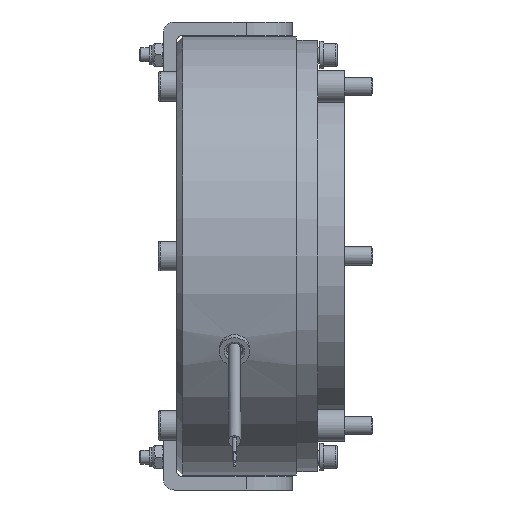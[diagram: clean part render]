
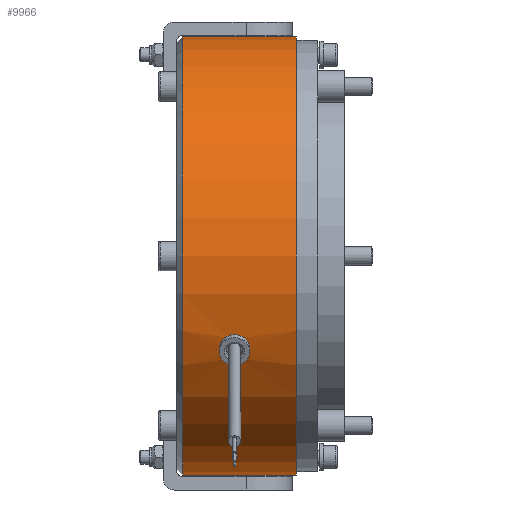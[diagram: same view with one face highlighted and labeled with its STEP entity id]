
A CAD part, front view. The second image highlights one B-rep face of the part: STEP entity #9966.
In plain terms, the highlighted cylindrical face has radius 95 mm (diameter 190 mm), a full revolution.
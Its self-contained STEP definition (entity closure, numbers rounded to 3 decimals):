
#227=B_SPLINE_CURVE_WITH_KNOTS('',3,(#20321,#20322,#20323,#20324,#20325,
#20326,#20327,#20328,#20329,#20330,#20331,#20332,#20333,#20334,#20335,#20336,
#20337,#20338,#20339),.UNSPECIFIED.,.F.,.F.,(4,2,2,2,3,2,2,2,4),(2.348,
2.544,2.74,2.935,3.131,3.326,
3.522,3.718,3.913),.UNSPECIFIED.);
#228=B_SPLINE_CURVE_WITH_KNOTS('',3,(#20342,#20343,#20344,#20345,#20346,
#20347,#20348,#20349,#20350,#20351,#20352,#20353,#20354,#20355,#20356,#20357,
#20358,#20359),.UNSPECIFIED.,.F.,.F.,(4,2,2,2,2,2,2,2,4),(0.783,
0.978,1.174,1.37,1.565,1.761,
1.957,2.152,2.348),.UNSPECIFIED.);
#509=FACE_BOUND('',#1526,.T.);
#940=FACE_OUTER_BOUND('',#1525,.T.);
#1525=EDGE_LOOP('',(#7331,#7332,#7333,#7334,#7335,#7336));
#1526=EDGE_LOOP('',(#7337,#7338,#7339,#7340,#7341,#7342));
#2056=LINE('',#20316,#2530);
#2057=LINE('',#20319,#2531);
#2058=LINE('',#20341,#2532);
#2530=VECTOR('',#12859,95.);
#2531=VECTOR('',#12860,10.);
#2532=VECTOR('',#12861,10.);
#3079=CIRCLE('',#10826,95.);
#3080=CIRCLE('',#10827,95.);
#3089=CIRCLE('',#10838,95.);
#3090=CIRCLE('',#10839,95.);
#3943=VERTEX_POINT('',#20164);
#3944=VERTEX_POINT('',#20165);
#3955=VERTEX_POINT('',#20312);
#3956=VERTEX_POINT('',#20313);
#3957=VERTEX_POINT('',#20317);
#3958=VERTEX_POINT('',#20318);
#3959=VERTEX_POINT('',#20320);
#3960=VERTEX_POINT('',#20340);
#5165=EDGE_CURVE('',#3943,#3944,#3079,.T.);
#5166=EDGE_CURVE('',#3944,#3943,#3080,.T.);
#5179=EDGE_CURVE('',#3955,#3956,#3089,.T.);
#5180=EDGE_CURVE('',#3956,#3955,#3090,.T.);
#5181=EDGE_CURVE('',#3956,#3944,#2056,.T.);
#5182=EDGE_CURVE('',#3957,#3958,#2057,.T.);
#5183=EDGE_CURVE('',#3957,#3959,#227,.T.);
#5184=EDGE_CURVE('',#3959,#3960,#2058,.T.);
#5185=EDGE_CURVE('',#3959,#3957,#228,.T.);
#7331=ORIENTED_EDGE('',*,*,#5179,.F.);
#7332=ORIENTED_EDGE('',*,*,#5180,.F.);
#7333=ORIENTED_EDGE('',*,*,#5181,.T.);
#7334=ORIENTED_EDGE('',*,*,#5165,.F.);
#7335=ORIENTED_EDGE('',*,*,#5166,.F.);
#7336=ORIENTED_EDGE('',*,*,#5181,.F.);
#7337=ORIENTED_EDGE('',*,*,#5182,.T.);
#7338=ORIENTED_EDGE('',*,*,#5182,.F.);
#7339=ORIENTED_EDGE('',*,*,#5183,.T.);
#7340=ORIENTED_EDGE('',*,*,#5184,.T.);
#7341=ORIENTED_EDGE('',*,*,#5184,.F.);
#7342=ORIENTED_EDGE('',*,*,#5185,.T.);
#9029=CYLINDRICAL_SURFACE('',#10837,95.);
#9966=ADVANCED_FACE('',(#940,#509),#9029,.T.);
#10826=AXIS2_PLACEMENT_3D('',#20166,#12829,#12830);
#10827=AXIS2_PLACEMENT_3D('',#20167,#12831,#12832);
#10837=AXIS2_PLACEMENT_3D('',#20311,#12853,#12854);
#10838=AXIS2_PLACEMENT_3D('',#20314,#12855,#12856);
#10839=AXIS2_PLACEMENT_3D('',#20315,#12857,#12858);
#12829=DIRECTION('center_axis',(-1.,0.,0.));
#12830=DIRECTION('ref_axis',(0.,-1.,0.));
#12831=DIRECTION('center_axis',(-1.,0.,0.));
#12832=DIRECTION('ref_axis',(0.,-1.,0.));
#12853=DIRECTION('center_axis',(1.,0.,0.));
#12854=DIRECTION('ref_axis',(0.,1.,0.));
#12855=DIRECTION('center_axis',(1.,0.,0.));
#12856=DIRECTION('ref_axis',(0.,1.,0.));
#12857=DIRECTION('center_axis',(1.,0.,0.));
#12858=DIRECTION('ref_axis',(0.,1.,0.));
#12859=DIRECTION('',(-1.,0.,0.));
#12860=DIRECTION('',(-1.,0.,0.));
#12861=DIRECTION('',(1.,0.,0.));
#20164=CARTESIAN_POINT('',(-49.2,95.,0.));
#20165=CARTESIAN_POINT('',(-49.2,-95.,0.));
#20166=CARTESIAN_POINT('Origin',(-49.2,0.,0.));
#20167=CARTESIAN_POINT('Origin',(-49.2,0.,0.));
#20311=CARTESIAN_POINT('Origin',(-25.85,0.,0.));
#20312=CARTESIAN_POINT('',(0.,0.,95.));
#20313=CARTESIAN_POINT('',(0.,-95.,0.));
#20314=CARTESIAN_POINT('Origin',(0.,0.,0.));
#20315=CARTESIAN_POINT('Origin',(0.,0.,0.));
#20316=CARTESIAN_POINT('',(-25.85,-95.,0.));
#20317=CARTESIAN_POINT('',(-31.9,-86.099,-40.149));
#20318=CARTESIAN_POINT('',(-33.3,-86.099,-40.149));
#20319=CARTESIAN_POINT('',(0.,-86.099,-40.149));
#20320=CARTESIAN_POINT('',(-21.5,-86.099,-40.149));
#20321=CARTESIAN_POINT('Ctrl Pts',(-31.9,-86.099,
-40.149));
#20322=CARTESIAN_POINT('Ctrl Pts',(-31.9,-86.375,
-39.557));
#20323=CARTESIAN_POINT('Ctrl Pts',(-31.769,-86.662,-38.924));
#20324=CARTESIAN_POINT('Ctrl Pts',(-31.237,-87.178,
-37.753));
#20325=CARTESIAN_POINT('Ctrl Pts',(-30.836,-87.408,
-37.217));
#20326=CARTESIAN_POINT('Ctrl Pts',(-29.912,-87.764,
-36.368));
#20327=CARTESIAN_POINT('Ctrl Pts',(-29.328,-87.916,
-35.999));
#20328=CARTESIAN_POINT('Ctrl Pts',(-28.048,-88.115,
-35.509));
#20329=CARTESIAN_POINT('Ctrl Pts',(-27.352,-88.163,
-35.388));
#20330=CARTESIAN_POINT('Ctrl Pts',(-26.7,-88.163,-35.388));
#20331=CARTESIAN_POINT('Ctrl Pts',(-26.048,-88.163,
-35.388));
#20332=CARTESIAN_POINT('Ctrl Pts',(-25.352,-88.115,
-35.509));
#20333=CARTESIAN_POINT('Ctrl Pts',(-24.072,-87.916,
-35.999));
#20334=CARTESIAN_POINT('Ctrl Pts',(-23.488,-87.764,
-36.368));
#20335=CARTESIAN_POINT('Ctrl Pts',(-22.564,-87.408,
-37.217));
#20336=CARTESIAN_POINT('Ctrl Pts',(-22.163,-87.178,
-37.753));
#20337=CARTESIAN_POINT('Ctrl Pts',(-21.631,-86.662,-38.924));
#20338=CARTESIAN_POINT('Ctrl Pts',(-21.5,-86.375,-39.557));
#20339=CARTESIAN_POINT('Ctrl Pts',(-21.5,-86.099,-40.149));
#20340=CARTESIAN_POINT('',(-20.1,-86.099,-40.149));
#20341=CARTESIAN_POINT('',(-25.85,-86.099,-40.149));
#20342=CARTESIAN_POINT('Ctrl Pts',(-21.5,-86.099,-40.149));
#20343=CARTESIAN_POINT('Ctrl Pts',(-21.5,-85.824,-40.74));
#20344=CARTESIAN_POINT('Ctrl Pts',(-21.631,-85.523,
-41.367));
#20345=CARTESIAN_POINT('Ctrl Pts',(-22.163,-84.958,
-42.515));
#20346=CARTESIAN_POINT('Ctrl Pts',(-22.564,-84.694,
-43.036));
#20347=CARTESIAN_POINT('Ctrl Pts',(-23.488,-84.273,
-43.855));
#20348=CARTESIAN_POINT('Ctrl Pts',(-24.072,-84.088,
-44.208));
#20349=CARTESIAN_POINT('Ctrl Pts',(-25.352,-83.84,
-44.675));
#20350=CARTESIAN_POINT('Ctrl Pts',(-26.048,-83.779,
-44.79));
#20351=CARTESIAN_POINT('Ctrl Pts',(-27.352,-83.779,
-44.79));
#20352=CARTESIAN_POINT('Ctrl Pts',(-28.048,-83.84,
-44.675));
#20353=CARTESIAN_POINT('Ctrl Pts',(-29.328,-84.088,
-44.208));
#20354=CARTESIAN_POINT('Ctrl Pts',(-29.912,-84.273,
-43.855));
#20355=CARTESIAN_POINT('Ctrl Pts',(-30.836,-84.694,
-43.036));
#20356=CARTESIAN_POINT('Ctrl Pts',(-31.237,-84.958,
-42.515));
#20357=CARTESIAN_POINT('Ctrl Pts',(-31.769,-85.523,
-41.367));
#20358=CARTESIAN_POINT('Ctrl Pts',(-31.9,-85.824,-40.74));
#20359=CARTESIAN_POINT('Ctrl Pts',(-31.9,-86.099,-40.149));
